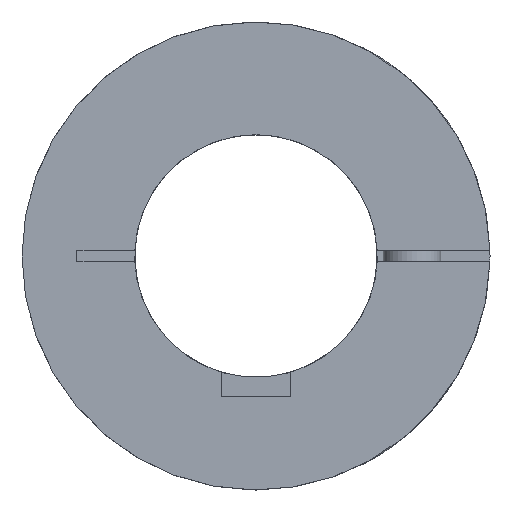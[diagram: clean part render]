
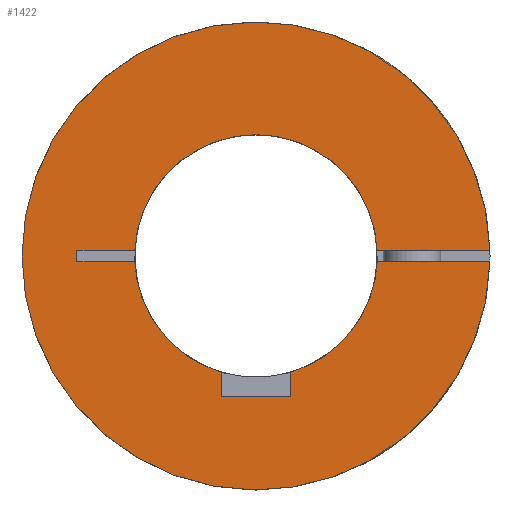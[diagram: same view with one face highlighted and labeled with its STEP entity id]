
A CAD part, left-side view. The second image highlights one B-rep face of the part: STEP entity #1422.
In plain terms, the highlighted planar face has unit normal (-1, 0, 0).
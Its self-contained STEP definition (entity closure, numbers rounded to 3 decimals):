
#54=PLANE('',#1557);
#113=LINE('',#2246,#220);
#116=LINE('',#2252,#223);
#117=LINE('',#2254,#224);
#127=LINE('',#2273,#234);
#133=LINE('',#2291,#240);
#135=LINE('',#2295,#242);
#136=LINE('',#2296,#243);
#137=LINE('',#2298,#244);
#220=VECTOR('',#1781,1.);
#223=VECTOR('',#1786,1.);
#224=VECTOR('',#1789,1.);
#234=VECTOR('',#1807,1000.);
#240=VECTOR('',#1823,1000.);
#242=VECTOR('',#1827,1000.);
#243=VECTOR('',#1828,1000.);
#244=VECTOR('',#1829,1000.);
#345=FACE_OUTER_BOUND('',#426,.T.);
#426=EDGE_LOOP('',(#1059,#1060,#1061,#1062,#1063,#1064,#1065,#1066,#1067,
#1068,#1069,#1070));
#539=CIRCLE('',#1539,21.);
#541=CIRCLE('',#1541,21.);
#542=CIRCLE('',#1543,21.);
#547=CIRCLE('',#1558,40.5);
#640=VERTEX_POINT('',#2219);
#641=VERTEX_POINT('',#2221);
#644=VERTEX_POINT('',#2227);
#645=VERTEX_POINT('',#2229);
#646=VERTEX_POINT('',#2233);
#647=VERTEX_POINT('',#2234);
#651=VERTEX_POINT('',#2244);
#653=VERTEX_POINT('',#2250);
#658=VERTEX_POINT('',#2272);
#665=VERTEX_POINT('',#2290);
#666=VERTEX_POINT('',#2294);
#667=VERTEX_POINT('',#2297);
#795=EDGE_CURVE('',#641,#640,#539,.T.);
#799=EDGE_CURVE('',#645,#644,#541,.T.);
#801=EDGE_CURVE('',#646,#647,#542,.T.);
#807=EDGE_CURVE('',#644,#651,#113,.T.);
#810=EDGE_CURVE('',#651,#653,#116,.T.);
#811=EDGE_CURVE('',#653,#641,#117,.T.);
#821=EDGE_CURVE('',#645,#658,#127,.T.);
#830=EDGE_CURVE('',#665,#646,#133,.T.);
#832=EDGE_CURVE('',#666,#640,#135,.T.);
#833=EDGE_CURVE('',#665,#666,#136,.T.);
#834=EDGE_CURVE('',#647,#667,#137,.T.);
#835=EDGE_CURVE('',#667,#658,#547,.T.);
#1059=ORIENTED_EDGE('',*,*,#799,.T.);
#1060=ORIENTED_EDGE('',*,*,#807,.T.);
#1061=ORIENTED_EDGE('',*,*,#810,.T.);
#1062=ORIENTED_EDGE('',*,*,#811,.T.);
#1063=ORIENTED_EDGE('',*,*,#795,.T.);
#1064=ORIENTED_EDGE('',*,*,#832,.F.);
#1065=ORIENTED_EDGE('',*,*,#833,.F.);
#1066=ORIENTED_EDGE('',*,*,#830,.T.);
#1067=ORIENTED_EDGE('',*,*,#801,.T.);
#1068=ORIENTED_EDGE('',*,*,#834,.T.);
#1069=ORIENTED_EDGE('',*,*,#835,.T.);
#1070=ORIENTED_EDGE('',*,*,#821,.F.);
#1422=ADVANCED_FACE('',(#345),#54,.T.);
#1539=AXIS2_PLACEMENT_3D('',#2222,#1760,#1761);
#1541=AXIS2_PLACEMENT_3D('',#2230,#1766,#1767);
#1543=AXIS2_PLACEMENT_3D('',#2235,#1771,#1772);
#1557=AXIS2_PLACEMENT_3D('',#2293,#1825,#1826);
#1558=AXIS2_PLACEMENT_3D('',#2299,#1830,#1831);
#1760=DIRECTION('center_axis',(1.,0.,0.));
#1761=DIRECTION('ref_axis',(0.,0.,-1.));
#1766=DIRECTION('center_axis',(1.,0.,0.));
#1767=DIRECTION('ref_axis',(0.,0.,-1.));
#1771=DIRECTION('center_axis',(1.,0.,0.));
#1772=DIRECTION('ref_axis',(0.,0.,-1.));
#1781=DIRECTION('',(0.,0.,-1.));
#1786=DIRECTION('',(0.,1.,0.));
#1789=DIRECTION('',(0.,0.,1.));
#1807=DIRECTION('',(0.,-1.,0.));
#1823=DIRECTION('',(0.,-1.,0.));
#1825=DIRECTION('center_axis',(-1.,0.,0.));
#1826=DIRECTION('ref_axis',(0.,1.,0.));
#1827=DIRECTION('',(0.,-1.,0.));
#1828=DIRECTION('',(0.,0.,-1.));
#1829=DIRECTION('',(0.,-1.,0.));
#1830=DIRECTION('center_axis',(-1.,0.,0.));
#1831=DIRECTION('ref_axis',(0.,1.,0.));
#2219=CARTESIAN_POINT('',(0.,20.976,-1.));
#2221=CARTESIAN_POINT('',(0.,6.,-20.125));
#2222=CARTESIAN_POINT('Origin',(0.,0.,0.));
#2227=CARTESIAN_POINT('',(0.,-6.,-20.125));
#2229=CARTESIAN_POINT('',(0.,-20.976,-1.));
#2230=CARTESIAN_POINT('Origin',(0.,0.,0.));
#2233=CARTESIAN_POINT('',(0.,20.976,1.));
#2234=CARTESIAN_POINT('',(0.,-20.976,1.));
#2235=CARTESIAN_POINT('Origin',(0.,0.,0.));
#2244=CARTESIAN_POINT('',(0.,-6.,-24.3));
#2246=CARTESIAN_POINT('',(0.,-6.,-10.825));
#2250=CARTESIAN_POINT('',(0.,6.,-24.3));
#2252=CARTESIAN_POINT('',(0.,0.,-24.3));
#2254=CARTESIAN_POINT('',(0.,6.,-10.825));
#2272=CARTESIAN_POINT('',(0.,-40.488,-1.));
#2273=CARTESIAN_POINT('',(0.,31.,-1.));
#2290=CARTESIAN_POINT('',(0.,31.,1.));
#2291=CARTESIAN_POINT('',(0.,31.,1.));
#2293=CARTESIAN_POINT('Origin',(0.,0.,-9.5));
#2294=CARTESIAN_POINT('',(0.,31.,-1.));
#2295=CARTESIAN_POINT('',(0.,31.,-1.));
#2296=CARTESIAN_POINT('',(0.,31.,1.));
#2297=CARTESIAN_POINT('',(0.,-40.488,1.));
#2298=CARTESIAN_POINT('',(0.,31.,1.));
#2299=CARTESIAN_POINT('Origin',(0.,0.,0.));
